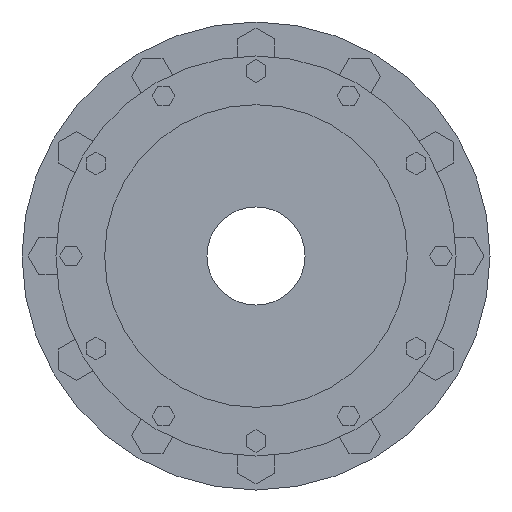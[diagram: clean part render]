
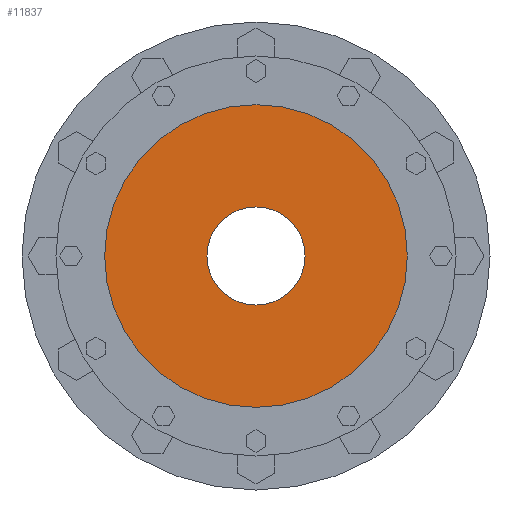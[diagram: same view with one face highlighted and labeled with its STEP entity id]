
A CAD part, left-side view. The second image highlights one B-rep face of the part: STEP entity #11837.
In plain terms, the highlighted planar face has unit normal (-1, 0, 0) as drawn and (1, 0, 0) by its records, which use the part's own axes.
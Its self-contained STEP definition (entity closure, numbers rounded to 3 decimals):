
#11661=CARTESIAN_POINT('',(-5.,0.,0.));
#11662=DIRECTION('',(1.,0.,0.));
#11663=DIRECTION('',(0.,1.,0.));
#11664=AXIS2_PLACEMENT_3D('',#11661,#11662,#11663);
#11671=CARTESIAN_POINT('',(-5.,0.,0.));
#11672=DIRECTION('',(-1.,0.,0.));
#11673=DIRECTION('',(0.,1.,0.));
#11674=AXIS2_PLACEMENT_3D('',#11671,#11672,#11673);
#11676=CARTESIAN_POINT('',(-5.,0.,0.));
#11677=DIRECTION('',(1.,0.,0.));
#11678=DIRECTION('',(0.,1.,0.));
#11679=AXIS2_PLACEMENT_3D('',#11676,#11677,#11678);
#11755=CARTESIAN_POINT('',(-5.,0.,0.));
#11756=DIRECTION('',(1.,0.,0.));
#11757=DIRECTION('',(0.,-1.,0.));
#11758=AXIS2_PLACEMENT_3D('',#11755,#11756,#11757);
#11782=CARTESIAN_POINT('',(-5.,100.25,0.));
#11784=VERTEX_POINT('',#11782);
#11786=CARTESIAN_POINT('',(-5.,-100.25,0.));
#11788=VERTEX_POINT('',#11786);
#11793=CARTESIAN_POINT('',(-5.,32.5,0.));
#11794=CARTESIAN_POINT('',(-5.,-32.5,0.));
#11795=VERTEX_POINT('',#11793);
#11796=VERTEX_POINT('',#11794);
#11821=CARTESIAN_POINT('',(-5.,0.,0.));
#11822=DIRECTION('',(1.,0.,0.));
#11823=DIRECTION('',(0.,-1.,0.));
#11824=AXIS2_PLACEMENT_3D('',#11821,#11822,#11823);
#11825=PLANE('',#11824);
#11827=ORIENTED_EDGE('',*,*,#11826,.T.);
#11829=ORIENTED_EDGE('',*,*,#11828,.F.);
#11830=EDGE_LOOP('',(#11827,#11829));
#11831=FACE_OUTER_BOUND('',#11830,.F.);
#11832=ORIENTED_EDGE('',*,*,#11810,.T.);
#11834=ORIENTED_EDGE('',*,*,#11833,.T.);
#11835=EDGE_LOOP('',(#11832,#11834));
#11836=FACE_BOUND('',#11835,.F.);
#11837=ADVANCED_FACE('',(#11831,#11836),#11825,.T.);
#11665=CIRCLE('',#11664,32.5);
#11675=CIRCLE('',#11674,100.25);
#11680=CIRCLE('',#11679,100.25);
#11759=CIRCLE('',#11758,32.5);
#11810=EDGE_CURVE('',#11795,#11796,#11665,.T.);
#11826=EDGE_CURVE('',#11784,#11788,#11675,.T.);
#11828=EDGE_CURVE('',#11784,#11788,#11680,.T.);
#11833=EDGE_CURVE('',#11796,#11795,#11759,.T.);
